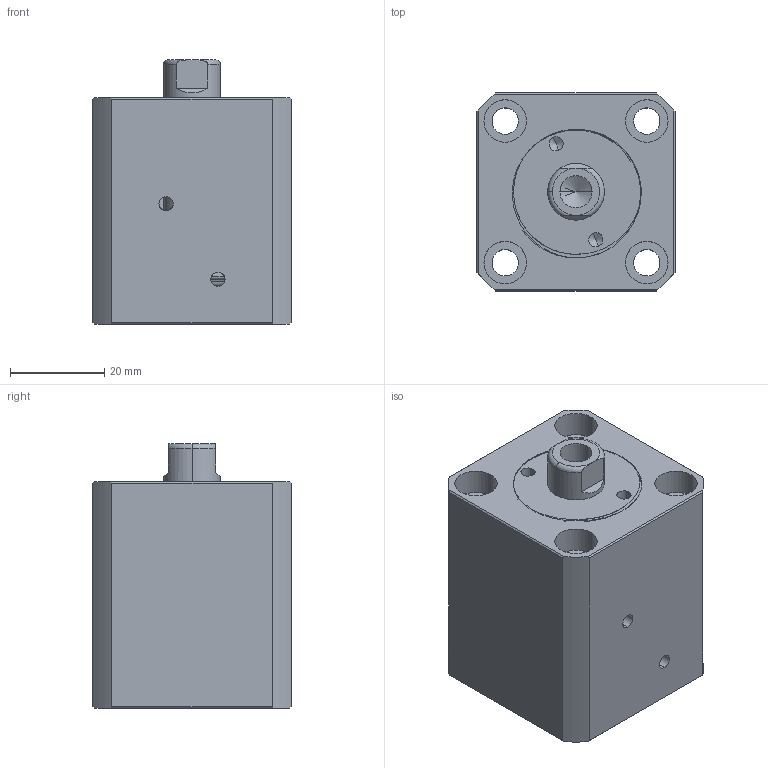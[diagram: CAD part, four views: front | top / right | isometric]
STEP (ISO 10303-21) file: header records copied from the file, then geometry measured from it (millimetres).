
FILE_DESCRIPTION (( 'STEP AP214' ), '1' );
FILE_NAME ('chtb-sdmb20x5n_asm.STEP', '2018-05-18T08:25:11', ( 'Windows' ), ( 'Microsoft' ), 'SwSTEP 2.0', 'SolidWorks 2015', '' );
FILE_SCHEMA (( 'AUTOMOTIVE_DESIGN' ));
Length unit declared in the file: millimetre
Products named in the file (4): QG_3; CHTB-SDMB20X5NHSG; CHTB-SDMB20X5NBT; chtb-sdmb20x5n_asm
Assembly tree (3 placements, depth 2):
  chtb-sdmb20x5n_asm
    CHTB-SDMB20X5NBT
    CHTB-SDMB20X5NHSG
    QG_3
Bounding box: 42 x 42 x 56 mm (x, y, z)
Volume: 74230.3 mm3; surface area: 26023.8 mm2
Topology: 3 solids, 3 shells, 201 faces, 535 edges, 354 vertices
Faces by surface type: cylinder 106, plane 43, torus 25, bspline 21, cone 6
Entity records: 11558 total; most frequent: CARTESIAN_POINT 6663, ORIENTED_EDGE 1058, DIRECTION 922, EDGE_CURVE 529, AXIS2_PLACEMENT_3D 388, VERTEX_POINT 354, EDGE_LOOP 239, CIRCLE 202
